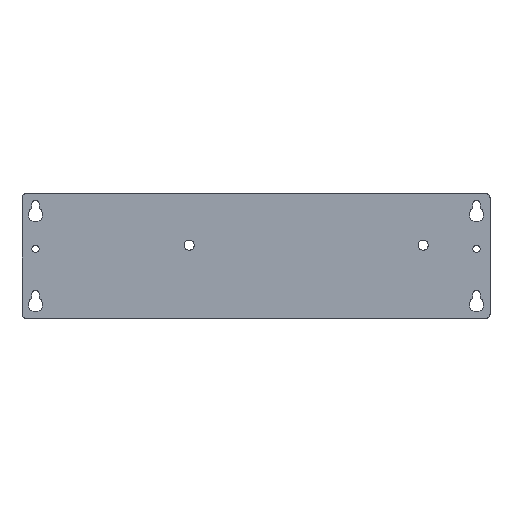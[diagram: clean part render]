
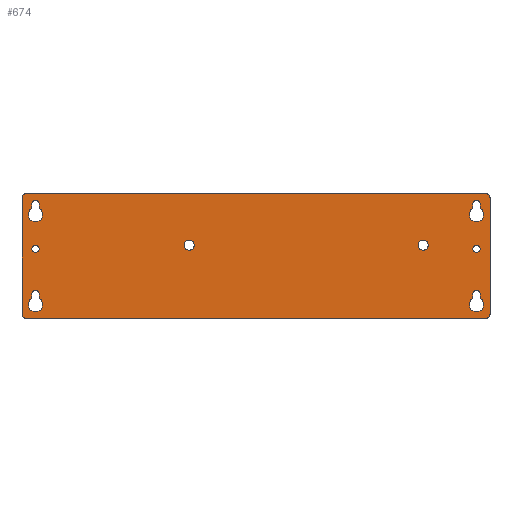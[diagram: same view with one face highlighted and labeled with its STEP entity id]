
A CAD part, top view. The second image highlights one B-rep face of the part: STEP entity #674.
In plain terms, the highlighted planar face has unit normal (0, 0, 1).
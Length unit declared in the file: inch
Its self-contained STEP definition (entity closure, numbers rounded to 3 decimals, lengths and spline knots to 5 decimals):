
#35=CARTESIAN_POINT('',(-6.38189,1.61689,0.));
#36=DIRECTION('',(0.,0.,1.));
#37=DIRECTION('',(0.,1.,0.));
#38=AXIS2_PLACEMENT_3D('',#35,#36,#37);
#40=DIRECTION('',(-1.,0.,0.));
#41=VECTOR('',#40,12.76378);
#42=CARTESIAN_POINT('',(6.38189,1.735,0.));
#43=LINE('',#42,#41);
#44=CARTESIAN_POINT('',(6.38189,1.61689,0.));
#45=DIRECTION('',(0.,0.,1.));
#46=DIRECTION('',(1.,0.,0.));
#47=AXIS2_PLACEMENT_3D('',#44,#45,#46);
#49=DIRECTION('',(0.,1.,0.));
#50=VECTOR('',#49,3.23378);
#51=CARTESIAN_POINT('',(6.5,-1.61689,0.));
#52=LINE('',#51,#50);
#53=CARTESIAN_POINT('',(6.38189,-1.61689,0.));
#54=DIRECTION('',(0.,0.,1.));
#55=DIRECTION('',(0.,-1.,0.));
#56=AXIS2_PLACEMENT_3D('',#53,#54,#55);
#58=DIRECTION('',(1.,0.,0.));
#59=VECTOR('',#58,12.76378);
#60=CARTESIAN_POINT('',(-6.38189,-1.735,0.));
#61=LINE('',#60,#59);
#62=CARTESIAN_POINT('',(-6.38189,-1.61689,0.));
#63=DIRECTION('',(0.,0.,1.));
#64=DIRECTION('',(-1.,0.,0.));
#65=AXIS2_PLACEMENT_3D('',#62,#63,#64);
#67=DIRECTION('',(0.,-1.,0.));
#68=VECTOR('',#67,3.23378);
#69=CARTESIAN_POINT('',(-6.5,1.61689,0.));
#70=LINE('',#69,#68);
#71=CARTESIAN_POINT('',(-6.125,0.2,0.));
#72=DIRECTION('',(0.,0.,1.));
#73=DIRECTION('',(1.,0.,0.));
#74=AXIS2_PLACEMENT_3D('',#71,#72,#73);
#76=CARTESIAN_POINT('',(-6.125,0.2,0.));
#77=DIRECTION('',(0.,0.,1.));
#78=DIRECTION('',(-1.,0.,0.));
#79=AXIS2_PLACEMENT_3D('',#76,#77,#78);
#81=CARTESIAN_POINT('',(6.125,0.2,0.));
#82=DIRECTION('',(0.,0.,1.));
#83=DIRECTION('',(1.,0.,0.));
#84=AXIS2_PLACEMENT_3D('',#81,#82,#83);
#86=CARTESIAN_POINT('',(6.125,0.2,0.));
#87=DIRECTION('',(0.,0.,1.));
#88=DIRECTION('',(-1.,0.,0.));
#89=AXIS2_PLACEMENT_3D('',#86,#87,#88);
#91=DIRECTION('',(0.,1.,0.));
#92=VECTOR('',#91,0.12679);
#93=CARTESIAN_POINT('',(-6.025,1.32321,0.));
#94=LINE('',#93,#92);
#95=CARTESIAN_POINT('',(-6.125,1.45,0.));
#96=DIRECTION('',(0.,0.,1.));
#97=DIRECTION('',(1.,0.,0.));
#98=AXIS2_PLACEMENT_3D('',#95,#96,#97);
#100=DIRECTION('',(0.,-1.,0.));
#101=VECTOR('',#100,0.12679);
#102=CARTESIAN_POINT('',(-6.225,1.45,0.));
#103=LINE('',#102,#101);
#104=CARTESIAN_POINT('',(-6.125,1.15,0.));
#105=DIRECTION('',(0.,0.,1.));
#106=DIRECTION('',(-0.5,0.866,0.));
#107=AXIS2_PLACEMENT_3D('',#104,#105,#106);
#109=DIRECTION('',(0.,1.,0.));
#110=VECTOR('',#109,0.12679);
#111=CARTESIAN_POINT('',(-6.025,-1.17679,0.));
#112=LINE('',#111,#110);
#113=CARTESIAN_POINT('',(-6.125,-1.05,0.));
#114=DIRECTION('',(0.,0.,1.));
#115=DIRECTION('',(1.,0.,0.));
#116=AXIS2_PLACEMENT_3D('',#113,#114,#115);
#118=DIRECTION('',(0.,-1.,0.));
#119=VECTOR('',#118,0.12679);
#120=CARTESIAN_POINT('',(-6.225,-1.05,0.));
#121=LINE('',#120,#119);
#122=CARTESIAN_POINT('',(-6.125,-1.35,0.));
#123=DIRECTION('',(0.,0.,1.));
#124=DIRECTION('',(-0.5,0.866,0.));
#125=AXIS2_PLACEMENT_3D('',#122,#123,#124);
#127=CARTESIAN_POINT('',(6.125,-1.35,0.));
#128=DIRECTION('',(0.,0.,1.));
#129=DIRECTION('',(-0.5,0.866,0.));
#130=AXIS2_PLACEMENT_3D('',#127,#128,#129);
#132=DIRECTION('',(0.,1.,0.));
#133=VECTOR('',#132,0.12679);
#134=CARTESIAN_POINT('',(6.225,-1.17679,0.));
#135=LINE('',#134,#133);
#136=CARTESIAN_POINT('',(6.125,-1.05,0.));
#137=DIRECTION('',(0.,0.,1.));
#138=DIRECTION('',(1.,0.,0.));
#139=AXIS2_PLACEMENT_3D('',#136,#137,#138);
#141=DIRECTION('',(0.,-1.,0.));
#142=VECTOR('',#141,0.12679);
#143=CARTESIAN_POINT('',(6.025,-1.05,0.));
#144=LINE('',#143,#142);
#145=CARTESIAN_POINT('',(6.125,1.15,0.));
#146=DIRECTION('',(0.,0.,1.));
#147=DIRECTION('',(-0.5,0.866,0.));
#148=AXIS2_PLACEMENT_3D('',#145,#146,#147);
#150=DIRECTION('',(0.,1.,0.));
#151=VECTOR('',#150,0.12679);
#152=CARTESIAN_POINT('',(6.225,1.32321,0.));
#153=LINE('',#152,#151);
#154=CARTESIAN_POINT('',(6.125,1.45,0.));
#155=DIRECTION('',(0.,0.,1.));
#156=DIRECTION('',(1.,0.,0.));
#157=AXIS2_PLACEMENT_3D('',#154,#155,#156);
#159=DIRECTION('',(0.,-1.,0.));
#160=VECTOR('',#159,0.12679);
#161=CARTESIAN_POINT('',(6.025,1.45,0.));
#162=LINE('',#161,#160);
#163=CARTESIAN_POINT('',(-1.85433,0.30193,0.));
#164=DIRECTION('',(0.,0.,1.));
#165=DIRECTION('',(1.,0.,0.));
#166=AXIS2_PLACEMENT_3D('',#163,#164,#165);
#168=CARTESIAN_POINT('',(-1.85433,0.30193,0.));
#169=DIRECTION('',(0.,0.,1.));
#170=DIRECTION('',(-1.,0.,0.));
#171=AXIS2_PLACEMENT_3D('',#168,#169,#170);
#173=CARTESIAN_POINT('',(4.64567,0.30193,0.));
#174=DIRECTION('',(0.,0.,1.));
#175=DIRECTION('',(1.,0.,0.));
#176=AXIS2_PLACEMENT_3D('',#173,#174,#175);
#178=CARTESIAN_POINT('',(4.64567,0.30193,0.));
#179=DIRECTION('',(0.,0.,1.));
#180=DIRECTION('',(-1.,0.,0.));
#181=AXIS2_PLACEMENT_3D('',#178,#179,#180);
#459=CARTESIAN_POINT('',(-6.025,0.2,0.));
#460=CARTESIAN_POINT('',(-6.225,0.2,0.));
#461=VERTEX_POINT('',#459);
#462=VERTEX_POINT('',#460);
#463=CARTESIAN_POINT('',(6.225,0.2,0.));
#464=CARTESIAN_POINT('',(6.025,0.2,0.));
#465=VERTEX_POINT('',#463);
#466=VERTEX_POINT('',#464);
#467=CARTESIAN_POINT('',(-6.025,1.32321,0.));
#468=CARTESIAN_POINT('',(-6.025,1.45,0.));
#469=VERTEX_POINT('',#467);
#470=VERTEX_POINT('',#468);
#471=CARTESIAN_POINT('',(-6.225,1.45,0.));
#472=VERTEX_POINT('',#471);
#473=CARTESIAN_POINT('',(-6.225,1.32321,0.));
#474=VERTEX_POINT('',#473);
#475=CARTESIAN_POINT('',(-6.025,-1.17679,0.));
#476=CARTESIAN_POINT('',(-6.025,-1.05,0.));
#477=VERTEX_POINT('',#475);
#478=VERTEX_POINT('',#476);
#479=CARTESIAN_POINT('',(-6.225,-1.05,0.));
#480=VERTEX_POINT('',#479);
#481=CARTESIAN_POINT('',(-6.225,-1.17679,0.));
#482=VERTEX_POINT('',#481);
#483=CARTESIAN_POINT('',(6.025,-1.17679,0.));
#484=CARTESIAN_POINT('',(6.225,-1.17679,0.));
#485=VERTEX_POINT('',#483);
#486=VERTEX_POINT('',#484);
#487=CARTESIAN_POINT('',(6.225,-1.05,0.));
#488=VERTEX_POINT('',#487);
#489=CARTESIAN_POINT('',(6.025,-1.05,0.));
#490=VERTEX_POINT('',#489);
#491=CARTESIAN_POINT('',(6.025,1.32321,0.));
#492=CARTESIAN_POINT('',(6.225,1.32321,0.));
#493=VERTEX_POINT('',#491);
#494=VERTEX_POINT('',#492);
#495=CARTESIAN_POINT('',(6.225,1.45,0.));
#496=VERTEX_POINT('',#495);
#497=CARTESIAN_POINT('',(6.025,1.45,0.));
#498=VERTEX_POINT('',#497);
#539=CARTESIAN_POINT('',(-1.71378,0.30193,0.));
#540=CARTESIAN_POINT('',(-1.99488,0.30193,0.));
#541=VERTEX_POINT('',#539);
#542=VERTEX_POINT('',#540);
#543=CARTESIAN_POINT('',(4.78622,0.30193,0.));
#544=CARTESIAN_POINT('',(4.50512,0.30193,0.));
#545=VERTEX_POINT('',#543);
#546=VERTEX_POINT('',#544);
#555=CARTESIAN_POINT('',(-6.38189,1.735,0.));
#556=CARTESIAN_POINT('',(-6.5,1.61689,0.));
#557=VERTEX_POINT('',#555);
#558=VERTEX_POINT('',#556);
#563=CARTESIAN_POINT('',(-6.5,-1.61689,0.));
#564=CARTESIAN_POINT('',(-6.38189,-1.735,0.));
#565=VERTEX_POINT('',#563);
#566=VERTEX_POINT('',#564);
#571=CARTESIAN_POINT('',(6.38189,-1.735,0.));
#572=CARTESIAN_POINT('',(6.5,-1.61689,0.));
#573=VERTEX_POINT('',#571);
#574=VERTEX_POINT('',#572);
#579=CARTESIAN_POINT('',(6.5,1.61689,0.));
#580=CARTESIAN_POINT('',(6.38189,1.735,0.));
#581=VERTEX_POINT('',#579);
#582=VERTEX_POINT('',#580);
#587=CARTESIAN_POINT('',(0.,0.,0.));
#588=DIRECTION('',(0.,0.,1.));
#589=DIRECTION('',(1.,0.,0.));
#590=AXIS2_PLACEMENT_3D('',#587,#588,#589);
#591=PLANE('',#590);
#593=ORIENTED_EDGE('',*,*,#592,.F.);
#595=ORIENTED_EDGE('',*,*,#594,.F.);
#597=ORIENTED_EDGE('',*,*,#596,.F.);
#599=ORIENTED_EDGE('',*,*,#598,.F.);
#601=ORIENTED_EDGE('',*,*,#600,.F.);
#603=ORIENTED_EDGE('',*,*,#602,.F.);
#605=ORIENTED_EDGE('',*,*,#604,.F.);
#607=ORIENTED_EDGE('',*,*,#606,.F.);
#608=EDGE_LOOP('',(#593,#595,#597,#599,#601,#603,#605,#607));
#609=FACE_OUTER_BOUND('',#608,.F.);
#611=ORIENTED_EDGE('',*,*,#610,.T.);
#613=ORIENTED_EDGE('',*,*,#612,.T.);
#614=EDGE_LOOP('',(#611,#613));
#615=FACE_BOUND('',#614,.F.);
#617=ORIENTED_EDGE('',*,*,#616,.T.);
#619=ORIENTED_EDGE('',*,*,#618,.T.);
#620=EDGE_LOOP('',(#617,#619));
#621=FACE_BOUND('',#620,.F.);
#623=ORIENTED_EDGE('',*,*,#622,.T.);
#625=ORIENTED_EDGE('',*,*,#624,.T.);
#627=ORIENTED_EDGE('',*,*,#626,.T.);
#629=ORIENTED_EDGE('',*,*,#628,.T.);
#630=EDGE_LOOP('',(#623,#625,#627,#629));
#631=FACE_BOUND('',#630,.F.);
#633=ORIENTED_EDGE('',*,*,#632,.T.);
#635=ORIENTED_EDGE('',*,*,#634,.T.);
#637=ORIENTED_EDGE('',*,*,#636,.T.);
#639=ORIENTED_EDGE('',*,*,#638,.T.);
#640=EDGE_LOOP('',(#633,#635,#637,#639));
#641=FACE_BOUND('',#640,.F.);
#643=ORIENTED_EDGE('',*,*,#642,.T.);
#645=ORIENTED_EDGE('',*,*,#644,.T.);
#647=ORIENTED_EDGE('',*,*,#646,.T.);
#649=ORIENTED_EDGE('',*,*,#648,.T.);
#650=EDGE_LOOP('',(#643,#645,#647,#649));
#651=FACE_BOUND('',#650,.F.);
#653=ORIENTED_EDGE('',*,*,#652,.T.);
#655=ORIENTED_EDGE('',*,*,#654,.T.);
#657=ORIENTED_EDGE('',*,*,#656,.T.);
#659=ORIENTED_EDGE('',*,*,#658,.T.);
#660=EDGE_LOOP('',(#653,#655,#657,#659));
#661=FACE_BOUND('',#660,.F.);
#663=ORIENTED_EDGE('',*,*,#662,.T.);
#665=ORIENTED_EDGE('',*,*,#664,.T.);
#666=EDGE_LOOP('',(#663,#665));
#667=FACE_BOUND('',#666,.F.);
#669=ORIENTED_EDGE('',*,*,#668,.T.);
#671=ORIENTED_EDGE('',*,*,#670,.T.);
#672=EDGE_LOOP('',(#669,#671));
#673=FACE_BOUND('',#672,.F.);
#674=ADVANCED_FACE('',(#609,#615,#621,#631,#641,#651,#661,#667,#673),#591,.T.);
#39=CIRCLE('',#38,0.11811);
#48=CIRCLE('',#47,0.11811);
#57=CIRCLE('',#56,0.11811);
#66=CIRCLE('',#65,0.11811);
#75=CIRCLE('',#74,0.1);
#80=CIRCLE('',#79,0.1);
#85=CIRCLE('',#84,0.1);
#90=CIRCLE('',#89,0.1);
#99=CIRCLE('',#98,0.1);
#108=CIRCLE('',#107,0.2);
#117=CIRCLE('',#116,0.1);
#126=CIRCLE('',#125,0.2);
#131=CIRCLE('',#130,0.2);
#140=CIRCLE('',#139,0.1);
#149=CIRCLE('',#148,0.2);
#158=CIRCLE('',#157,0.1);
#167=CIRCLE('',#166,0.14055);
#172=CIRCLE('',#171,0.14055);
#177=CIRCLE('',#176,0.14055);
#182=CIRCLE('',#181,0.14055);
#592=EDGE_CURVE('',#557,#558,#39,.T.);
#594=EDGE_CURVE('',#582,#557,#43,.T.);
#596=EDGE_CURVE('',#581,#582,#48,.T.);
#598=EDGE_CURVE('',#574,#581,#52,.T.);
#600=EDGE_CURVE('',#573,#574,#57,.T.);
#602=EDGE_CURVE('',#566,#573,#61,.T.);
#604=EDGE_CURVE('',#565,#566,#66,.T.);
#606=EDGE_CURVE('',#558,#565,#70,.T.);
#610=EDGE_CURVE('',#461,#462,#75,.T.);
#612=EDGE_CURVE('',#462,#461,#80,.T.);
#616=EDGE_CURVE('',#465,#466,#85,.T.);
#618=EDGE_CURVE('',#466,#465,#90,.T.);
#622=EDGE_CURVE('',#469,#470,#94,.T.);
#624=EDGE_CURVE('',#470,#472,#99,.T.);
#626=EDGE_CURVE('',#472,#474,#103,.T.);
#628=EDGE_CURVE('',#474,#469,#108,.T.);
#632=EDGE_CURVE('',#477,#478,#112,.T.);
#634=EDGE_CURVE('',#478,#480,#117,.T.);
#636=EDGE_CURVE('',#480,#482,#121,.T.);
#638=EDGE_CURVE('',#482,#477,#126,.T.);
#642=EDGE_CURVE('',#485,#486,#131,.T.);
#644=EDGE_CURVE('',#486,#488,#135,.T.);
#646=EDGE_CURVE('',#488,#490,#140,.T.);
#648=EDGE_CURVE('',#490,#485,#144,.T.);
#652=EDGE_CURVE('',#493,#494,#149,.T.);
#654=EDGE_CURVE('',#494,#496,#153,.T.);
#656=EDGE_CURVE('',#496,#498,#158,.T.);
#658=EDGE_CURVE('',#498,#493,#162,.T.);
#662=EDGE_CURVE('',#541,#542,#167,.T.);
#664=EDGE_CURVE('',#542,#541,#172,.T.);
#668=EDGE_CURVE('',#545,#546,#177,.T.);
#670=EDGE_CURVE('',#546,#545,#182,.T.);
